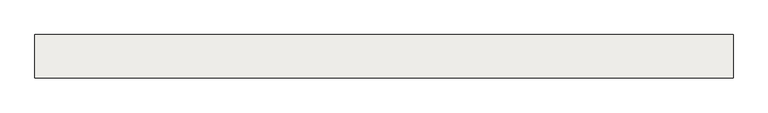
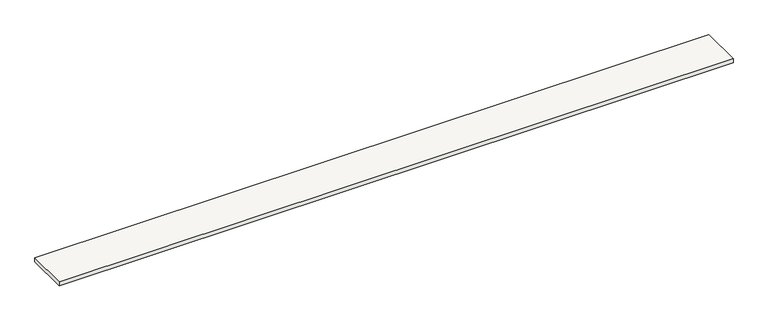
"""IFC4 building model written with IfcOpenShell, lengths in millimetres: slab geometry, Sol-02 - Tablette bois 2cm."""

import ifcopenshell
import ifcopenshell.guid

model = None  # the IFC model being written
_history = None  # IfcOwnerHistory: only IFC2X3 demands one
_inside = {}  # id of a spatial element -> (the spatial element, [elements in it])
_under = {}  # id of a project, library or spatial element -> (it, [spatial elements below it])
_declared = {}  # id of a project -> (the project, [libraries it declares])
_typed = {}  # id of a type object -> (the type object, [elements of that type])
_made_of = {}  # id of a material, layer set ... -> (it, [elements and type objects made of it])


def new_model(schema):
    """Start an empty IFC model of exactly this schema.

    Asked for "IFC4X3", IfcOpenShell would pick the latest addendum, in which some entities
    have other attributes; the version numbers below select the first issue.
    IFC2X3 requires an IfcOwnerHistory on every rooted entity: one is made here for all.
    """
    global model, _history
    if schema == "IFC4X3":
        model = ifcopenshell.file(schema_version=(4, 3, 0, 0))
    else:
        model = ifcopenshell.file(schema=schema)
    _inside.clear()
    _under.clear()
    _declared.clear()
    _typed.clear()
    _made_of.clear()
    _history = None
    if model.schema == "IFC2X3":
        org = make("IfcOrganization", Name="unknown")
        user = make(
            "IfcPersonAndOrganization",
            ThePerson=make("IfcPerson", FamilyName="unknown"),
            TheOrganization=org,
        )
        app = make(
            "IfcApplication",
            ApplicationDeveloper=org,
            Version="unknown",
            ApplicationFullName="unknown",
            ApplicationIdentifier="unknown",
        )
        _history = make(
            "IfcOwnerHistory",
            OwningUser=user,
            OwningApplication=app,
            ChangeAction="ADDED",
            CreationDate=0,
        )
    return model


def make(cls, **values):
    """One entity of the class cls with the attributes given. An attribute that is None is left unset."""
    return model.create_entity(
        cls, **{name: value for name, value in values.items() if value is not None}
    )


def rooted(cls, **values):
    """An entity with a GlobalId (a new one), such as an element, a storey or a relation."""
    return make(cls, GlobalId=ifcopenshell.guid.new(), OwnerHistory=_history, **values)


def si_unit(unit_type, name, prefix=None):
    """IfcSIUnit, for example si_unit("LENGTHUNIT", "METRE", prefix="MILLI")."""
    return make("IfcSIUnit", UnitType=unit_type, Prefix=prefix, Name=name)


def assignment(units):
    """IfcUnitAssignment: the units of a project."""
    return None if units is None else make("IfcUnitAssignment", Units=units)


def point(xyz):
    """IfcCartesianPoint."""
    return None if xyz is None else make("IfcCartesianPoint", Coordinates=xyz)


def direction(xyz):
    """IfcDirection."""
    return None if xyz is None else make("IfcDirection", DirectionRatios=xyz)


def frame(location, z_axis=None, x_axis=None):
    """IfcAxis2Placement3D, a coordinate frame: its origin and axes. An axis left out is left unset."""
    return make(
        "IfcAxis2Placement3D",
        Location=point(location),
        Axis=direction(z_axis),
        RefDirection=direction(x_axis),
    )


def origin():
    """The frame at (0, 0, 0) with its axes left unset."""
    return frame((0.0, 0.0, 0.0))


def origin_with_axes():
    """The frame at (0, 0, 0) with the z axis (0, 0, 1) and the x axis (1, 0, 0) written out."""
    return frame((0.0, 0.0, 0.0), z_axis=(0.0, 0.0, 1.0), x_axis=(1.0, 0.0, 0.0))


def place(relative_to, where):
    """IfcLocalPlacement: puts the frame where relative to a parent placement (None: the world)."""
    return make(
        "IfcLocalPlacement", PlacementRelTo=relative_to, RelativePlacement=where
    )


def context(
    kind, dimensions, precision=None, world=None, true_north=None, identifier=None
):
    """IfcGeometricRepresentationContext, for example the 3D "Model" context."""
    return make(
        "IfcGeometricRepresentationContext",
        ContextIdentifier=identifier,
        ContextType=kind,
        CoordinateSpaceDimension=dimensions,
        Precision=precision,
        WorldCoordinateSystem=world,
        TrueNorth=true_north,
    )


def project(units=None, contexts=None):
    """IfcProject with its units and contexts."""
    return rooted(
        "IfcProject",
        Name="project",
        RepresentationContexts=contexts,
        UnitsInContext=assignment(units),
    )


def spatial(cls, under=None, at=None, **own):
    """A site, building, storey or space (cls), placed at a placement, below another one or the project."""
    s = rooted(cls, ObjectPlacement=at, **own)
    if under is not None:
        _under.setdefault(under.id(), (under, []))[1].append(s)
    return s


def polyline(points):
    """IfcPolyline through the points."""
    return make("IfcPolyline", Points=[point(p) for p in points])


def outline(outer, holes=None, kind="AREA"):
    """IfcArbitraryClosedProfileDef: a profile drawn as a closed curve; with holes, ...WithVoids."""
    if holes is None:
        return make("IfcArbitraryClosedProfileDef", ProfileType=kind, OuterCurve=outer)
    return make(
        "IfcArbitraryProfileDefWithVoids",
        ProfileType=kind,
        OuterCurve=outer,
        InnerCurves=holes,
    )


def extrude(swept, where, along, depth):
    """IfcExtrudedAreaSolid: the profile swept, set in the frame where, extruded along a direction by depth."""
    return make(
        "IfcExtrudedAreaSolid",
        SweptArea=swept,
        Position=where,
        ExtrudedDirection=direction(along),
        Depth=depth,
    )


def shape(context_of_items, identifier, shape_type, items):
    """IfcShapeRepresentation: the items that make up one representation, for example the "Body"."""
    return make(
        "IfcShapeRepresentation",
        ContextOfItems=context_of_items,
        RepresentationIdentifier=identifier,
        RepresentationType=shape_type,
        Items=items,
    )


def source(mapping_origin, context_of_items, identifier, shape_type, items):
    """IfcRepresentationMap: a shape defined once, which mapped items show again and again."""
    return make(
        "IfcRepresentationMap",
        MappingOrigin=mapping_origin,
        MappedRepresentation=shape(context_of_items, identifier, shape_type, items),
    )


def transform(
    local_origin,
    x_axis=None,
    y_axis=None,
    z_axis=None,
    scale=None,
    scale2=None,
    scale3=None,
    uniform=True,
):
    """IfcCartesianTransformationOperator3D, or its non-uniform kind. x_axis, y_axis, z_axis: its Axis1, 2, 3."""
    if uniform:
        return make(
            "IfcCartesianTransformationOperator3D",
            Axis1=direction(x_axis),
            Axis2=direction(y_axis),
            LocalOrigin=point(local_origin),
            Scale=scale,
            Axis3=direction(z_axis),
        )
    return make(
        "IfcCartesianTransformationOperator3DnonUniform",
        Axis1=direction(x_axis),
        Axis2=direction(y_axis),
        LocalOrigin=point(local_origin),
        Scale=scale,
        Axis3=direction(z_axis),
        Scale2=scale2,
        Scale3=scale3,
    )


def mapped(mapping_source, mapping_target):
    """IfcMappedItem: shows the shape of a source again, moved by a transform."""
    return make(
        "IfcMappedItem", MappingSource=mapping_source, MappingTarget=mapping_target
    )


def made_of(thing, what):
    """Note that an element or type object is made of a material, layer set ...; save() writes the relation."""
    if what is not None:
        _made_of.setdefault(what.id(), (what, []))[1].append(thing)
    return thing


def element(
    cls,
    number,
    at=None,
    inside=None,
    cuts=None,
    type_object=None,
    material=None,
    context=None,
    identifier="Body",
    shape_type=None,
    held_by="IfcProductDefinitionShape",
    body=None,
    shapes=None,
    **own,
):
    """One element of the class cls, such as IfcWall. Its Tag is "e" and its number.

    at: its placement. inside: the storey or other place that contains it. cuts: it is an
    opening in that element (IfcRelVoidsElement). A single representation is given by context,
    identifier, shape_type and body (its items); several are given by shapes. held_by: the class
    of the entity that holds the representations. save() writes the other relations.
    """
    e = rooted(cls, Tag="e%d" % number, ObjectPlacement=at, **own)
    if body is not None:
        shapes = [shape(context, identifier, shape_type, body)]
    if shapes is not None:
        e.Representation = make(held_by, Representations=shapes)
    if inside is not None:
        _inside.setdefault(inside.id(), (inside, []))[1].append(e)
    if cuts is not None:
        rooted(
            "IfcRelVoidsElement", RelatingBuildingElement=cuts, RelatedOpeningElement=e
        )
    if type_object is not None:
        _typed.setdefault(type_object.id(), (type_object, []))[1].append(e)
    return made_of(e, material)


def aggregate(whole, parts):
    """IfcRelAggregates: a whole, such as a stair, and the parts it consists of."""
    return rooted("IfcRelAggregates", RelatingObject=whole, RelatedObjects=parts)


def save(model, path):
    """Write the relations noted so far, then the file.

    IfcRelAggregates (storeys below a building ...), IfcRelContainedInSpatialStructure (elements
    in a storey), IfcRelDefinesByType, IfcRelAssociatesMaterial and IfcRelDeclares: one each for
    every whole, place, type object, material and project.
    """
    for whole, parts in _under.values():
        aggregate(whole, parts)
    for where, things in _inside.values():
        rooted(
            "IfcRelContainedInSpatialStructure",
            RelatedElements=things,
            RelatingStructure=where,
        )
    for kind, things in _typed.values():
        rooted("IfcRelDefinesByType", RelatedObjects=things, RelatingType=kind)
    for what, things in _made_of.values():
        rooted("IfcRelAssociatesMaterial", RelatedObjects=things, RelatingMaterial=what)
    for by, libraries in _declared.values():
        rooted("IfcRelDeclares", RelatingContext=by, RelatedDefinitions=libraries)
    model.write(path)


def slab_501424ef(model_context):
    return source(origin(), model_context, "Body", "SweptSolid", [
        extrude(outline(polyline([(72276.4999483, 300.0), (75488.9999483, 300.0), (75488.9999483, 100.0), (72276.4999483, 100.0), (72276.4999483, 300.0)])), origin_with_axes(), (0.0, 0.0, 1.0), 20.0),
    ])


if __name__ == "__main__":
    model = new_model("IFC4")
    model_context = context("Model", 3, world=origin())
    ifc_project = project(units=[si_unit("LENGTHUNIT", "METRE", prefix="MILLI")], contexts=[model_context])
    site = spatial("IfcSite", under=ifc_project)
    building = spatial("IfcBuilding", under=site)
    placement = place(None, origin())
    slab_shape = slab_501424ef(model_context)
    element("IfcSlab", 1, ObjectType="Sol-02 - Tablette bois 2cm", at=placement, inside=building, context=model_context, shape_type="MappedRepresentation", body=[
        mapped(slab_shape, transform((0.0, 0.0, 0.0), x_axis=(1.0, 0.0, 0.0), y_axis=(0.0, 1.0, 0.0), z_axis=(0.0, 0.0, 1.0))),
    ])
    save(model, "model.ifc")
